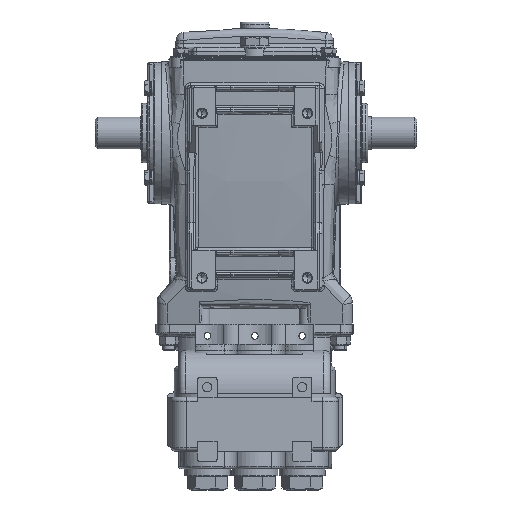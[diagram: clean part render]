
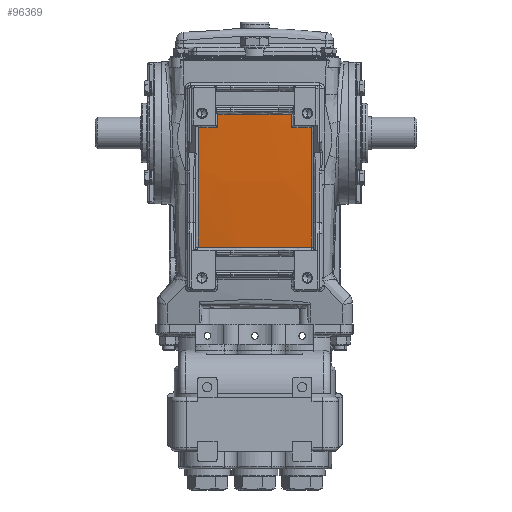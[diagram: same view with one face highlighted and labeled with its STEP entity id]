
A CAD part, front view. The second image highlights one B-rep face of the part: STEP entity #96369.
In plain terms, the highlighted spherical face has radius 1000 mm.
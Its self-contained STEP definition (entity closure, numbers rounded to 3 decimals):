
#12510 = CARTESIAN_POINT ( 'NONE',  ( 27.944, -57.255, 149.178 ) ) ;
#25452 = CARTESIAN_POINT ( 'NONE',  ( -42.914, -44.396, 58.359 ) ) ;
#34702 = CARTESIAN_POINT ( 'NONE',  ( 27.944, -58.095, 159.158 ) ) ;
#35272 = CARTESIAN_POINT ( 'NONE',  ( -27.944, -58.095, 159.158 ) ) ;
#51935 = SPHERICAL_SURFACE ( 'NONE', #51963, 1000. ) ;
#51961 = FACE_OUTER_BOUND ( 'NONE', #158116, .T. ) ;
#51963 = AXIS2_PLACEMENT_3D ( 'NONE', #142951, #142952, #142953 ) ;
#63887 = ORIENTED_EDGE ( 'NONE', *, *, #139200, .T. ) ;
#63972 = ORIENTED_EDGE ( 'NONE', *, *, #139190, .T. ) ;
#63984 = ORIENTED_EDGE ( 'NONE', *, *, #139204, .T. ) ;
#64003 = ORIENTED_EDGE ( 'NONE', *, *, #139183, .T. ) ;
#64031 = ORIENTED_EDGE ( 'NONE', *, *, #139222, .T. ) ;
#64047 = ORIENTED_EDGE ( 'NONE', *, *, #139216, .T. ) ;
#64072 = ORIENTED_EDGE ( 'NONE', *, *, #138971, .T. ) ;
#64141 = ORIENTED_EDGE ( 'NONE', *, *, #138969, .T. ) ;
#75582 = CARTESIAN_POINT ( 'NONE',  ( -42.914, -56.723, 149.178 ) ) ;
#96369 = ADVANCED_FACE ( 'NONE', ( #51961 ), #51935, .T. ) ;
#108721 = VERTEX_POINT ( 'NONE', #75582 ) ;
#108807 = VERTEX_POINT ( 'NONE', #141451 ) ;
#108855 = VERTEX_POINT ( 'NONE', #141877 ) ;
#109038 = VERTEX_POINT ( 'NONE', #25452 ) ;
#109213 = VERTEX_POINT ( 'NONE', #34702 ) ;
#109277 = VERTEX_POINT ( 'NONE', #35272 ) ;
#109385 = VERTEX_POINT ( 'NONE', #12510 ) ;
#109571 = VERTEX_POINT ( 'NONE', #155702 ) ;
#122551 = AXIS2_PLACEMENT_3D ( 'NONE', #165061, #165081, #165083 ) ;
#122579 = AXIS2_PLACEMENT_3D ( 'NONE', #165085, #165087, #165089 ) ;
#122648 = AXIS2_PLACEMENT_3D ( 'NONE', #166068, #166070, #166072 ) ;
#122651 = AXIS2_PLACEMENT_3D ( 'NONE', #166088, #166091, #166094 ) ;
#122654 = AXIS2_PLACEMENT_3D ( 'NONE', #166182, #166187, #166189 ) ;
#122656 = AXIS2_PLACEMENT_3D ( 'NONE', #166133, #166136, #166138 ) ;
#122658 = AXIS2_PLACEMENT_3D ( 'NONE', #166126, #166129, #166131 ) ;
#122661 = AXIS2_PLACEMENT_3D ( 'NONE', #166178, #166180, #166181 ) ;
#138969 = EDGE_CURVE ( 'NONE', #108807, #109571, #175446, .T. ) ;
#138971 = EDGE_CURVE ( 'NONE', #108855, #108721, #175448, .T. ) ;
#139183 = EDGE_CURVE ( 'NONE', #109385, #109213, #175570, .T. ) ;
#139190 = EDGE_CURVE ( 'NONE', #109213, #109277, #175580, .T. ) ;
#139200 = EDGE_CURVE ( 'NONE', #109571, #109385, #175587, .T. ) ;
#139204 = EDGE_CURVE ( 'NONE', #109277, #108855, #175590, .T. ) ;
#139216 = EDGE_CURVE ( 'NONE', #109038, #108807, #175596, .T. ) ;
#139222 = EDGE_CURVE ( 'NONE', #108721, #109038, #175600, .T. ) ;
#141451 = CARTESIAN_POINT ( 'NONE',  ( 42.914, -44.396, 58.359 ) ) ;
#141877 = CARTESIAN_POINT ( 'NONE',  ( -27.944, -57.255, 149.178 ) ) ;
#142951 = CARTESIAN_POINT ( 'NONE',  ( 0., 938.4, 238. ) ) ;
#142952 = DIRECTION ( 'NONE',  ( 0., 0.259, -0.966 ) ) ;
#142953 = DIRECTION ( 'NONE',  ( 0., -0.966, -0.259 ) ) ;
#155702 = CARTESIAN_POINT ( 'NONE',  ( 42.914, -56.723, 149.178 ) ) ;
#158116 = EDGE_LOOP ( 'NONE', ( #64072, #64031, #64047, #64141, #63887, #64003, #63972, #63984 ) ) ;
#165061 = CARTESIAN_POINT ( 'NONE',  ( 42.914, 938.4, 238. ) ) ;
#165081 = DIRECTION ( 'NONE',  ( -1., 0., 0. ) ) ;
#165083 = DIRECTION ( 'NONE',  ( 0., 0., 1. ) ) ;
#165085 = CARTESIAN_POINT ( 'NONE',  ( 0., 938.4, 149.178 ) ) ;
#165087 = DIRECTION ( 'NONE',  ( 0., 0., -1. ) ) ;
#165089 = DIRECTION ( 'NONE',  ( 1., 0., 0. ) ) ;
#166068 = CARTESIAN_POINT ( 'NONE',  ( 27.944, 938.4, 238. ) ) ;
#166070 = DIRECTION ( 'NONE',  ( -1., 0., 0. ) ) ;
#166072 = DIRECTION ( 'NONE',  ( 0., -1., 0. ) ) ;
#166088 = CARTESIAN_POINT ( 'NONE',  ( 0., 938.4, 159.158 ) ) ;
#166091 = DIRECTION ( 'NONE',  ( 0., 0., -1. ) ) ;
#166094 = DIRECTION ( 'NONE',  ( 1., 0., 0. ) ) ;
#166126 = CARTESIAN_POINT ( 'NONE',  ( 0., 938.4, 149.178 ) ) ;
#166129 = DIRECTION ( 'NONE',  ( 0., 0., -1. ) ) ;
#166131 = DIRECTION ( 'NONE',  ( 1., 0., 0. ) ) ;
#166133 = CARTESIAN_POINT ( 'NONE',  ( -27.944, 938.4, 238. ) ) ;
#166136 = DIRECTION ( 'NONE',  ( 1., 0., 0. ) ) ;
#166138 = DIRECTION ( 'NONE',  ( 0., 1., 0. ) ) ;
#166178 = CARTESIAN_POINT ( 'NONE',  ( 0., 938.4, 58.359 ) ) ;
#166180 = DIRECTION ( 'NONE',  ( 0., 0., 1. ) ) ;
#166181 = DIRECTION ( 'NONE',  ( 1., 0., 0. ) ) ;
#166182 = CARTESIAN_POINT ( 'NONE',  ( -42.914, 938.4, 238. ) ) ;
#166187 = DIRECTION ( 'NONE',  ( 1., 0., 0. ) ) ;
#166189 = DIRECTION ( 'NONE',  ( 0., 0., -1. ) ) ;
#175446 = CIRCLE ( 'NONE', #122551, 999.079 ) ;
#175448 = CIRCLE ( 'NONE', #122579, 996.047 ) ;
#175570 = CIRCLE ( 'NONE', #122648, 999.609 ) ;
#175580 = CIRCLE ( 'NONE', #122651, 996.887 ) ;
#175587 = CIRCLE ( 'NONE', #122658, 996.047 ) ;
#175590 = CIRCLE ( 'NONE', #122656, 999.609 ) ;
#175596 = CIRCLE ( 'NONE', #122661, 983.732 ) ;
#175600 = CIRCLE ( 'NONE', #122654, 999.079 ) ;
